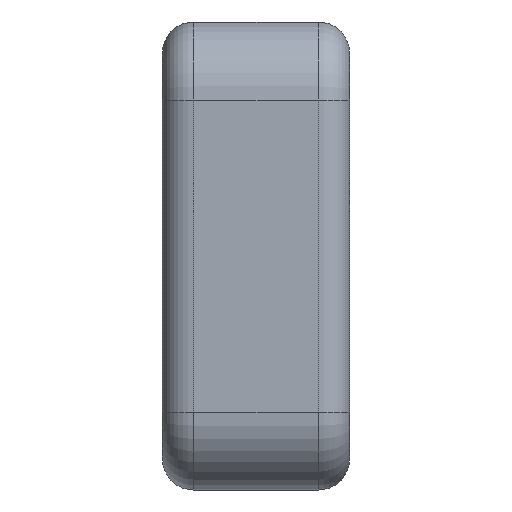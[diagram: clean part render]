
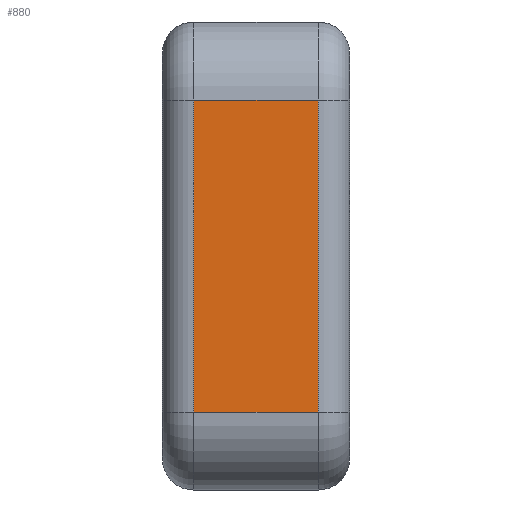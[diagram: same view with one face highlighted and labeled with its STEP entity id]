
A CAD part, left-side view. The second image highlights one B-rep face of the part: STEP entity #880.
In plain terms, the highlighted planar face has unit normal (-1, 0, 0).
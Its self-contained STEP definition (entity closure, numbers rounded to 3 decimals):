
#40 = VECTOR ( 'NONE', #1183, 1000. ) ;
#179 = CARTESIAN_POINT ( 'NONE',  ( -57.5, 10., 10. ) ) ;
#189 = CARTESIAN_POINT ( 'NONE',  ( -57.5, 10., -10. ) ) ;
#191 = CARTESIAN_POINT ( 'NONE',  ( -57.5, 2., -10. ) ) ;
#225 = CARTESIAN_POINT ( 'NONE',  ( -57.5, 12., -10. ) ) ;
#236 = DIRECTION ( 'NONE',  ( 0., 0., 1. ) ) ;
#289 = ORIENTED_EDGE ( 'NONE', *, *, #515, .T. ) ;
#370 = VECTOR ( 'NONE', #236, 1000. ) ;
#409 = VECTOR ( 'NONE', #626, 1000. ) ;
#440 = CARTESIAN_POINT ( 'NONE',  ( -57.5, 12., 10. ) ) ;
#462 = ORIENTED_EDGE ( 'NONE', *, *, #1119, .F. ) ;
#463 = EDGE_LOOP ( 'NONE', ( #462, #1054, #289, #1249 ) ) ;
#490 = PLANE ( 'NONE',  #1030 ) ;
#507 = VECTOR ( 'NONE', #1023, 1000. ) ;
#515 = EDGE_CURVE ( 'NONE', #851, #900, #727, .T. ) ;
#524 = EDGE_CURVE ( 'NONE', #900, #1128, #1143, .T. ) ;
#589 = CARTESIAN_POINT ( 'NONE',  ( -57.5, 12., 10. ) ) ;
#626 = DIRECTION ( 'NONE',  ( 0., -1., 0. ) ) ;
#643 = CARTESIAN_POINT ( 'NONE',  ( -57.5, 2., 10. ) ) ;
#727 = LINE ( 'NONE', #225, #409 ) ;
#728 = CARTESIAN_POINT ( 'NONE',  ( -57.5, 2., 10. ) ) ;
#791 = DIRECTION ( 'NONE',  ( 0., 0., -1. ) ) ;
#802 = CARTESIAN_POINT ( 'NONE',  ( -57.5, 10., 10. ) ) ;
#851 = VERTEX_POINT ( 'NONE', #189 ) ;
#880 = ADVANCED_FACE ( 'NONE', ( #1008 ), #490, .F. ) ;
#900 = VERTEX_POINT ( 'NONE', #191 ) ;
#906 = DIRECTION ( 'NONE',  ( 1., 0., 0. ) ) ;
#942 = VERTEX_POINT ( 'NONE', #802 ) ;
#1008 = FACE_OUTER_BOUND ( 'NONE', #463, .T. ) ;
#1023 = DIRECTION ( 'NONE',  ( 0., -1., 0. ) ) ;
#1030 = AXIS2_PLACEMENT_3D ( 'NONE', #589, #906, #791 ) ;
#1045 = LINE ( 'NONE', #440, #507 ) ;
#1054 = ORIENTED_EDGE ( 'NONE', *, *, #1235, .T. ) ;
#1119 = EDGE_CURVE ( 'NONE', #942, #1128, #1045, .T. ) ;
#1128 = VERTEX_POINT ( 'NONE', #728 ) ;
#1143 = LINE ( 'NONE', #643, #370 ) ;
#1183 = DIRECTION ( 'NONE',  ( 0., 0., -1. ) ) ;
#1235 = EDGE_CURVE ( 'NONE', #942, #851, #1287, .T. ) ;
#1249 = ORIENTED_EDGE ( 'NONE', *, *, #524, .T. ) ;
#1287 = LINE ( 'NONE', #179, #40 ) ;
